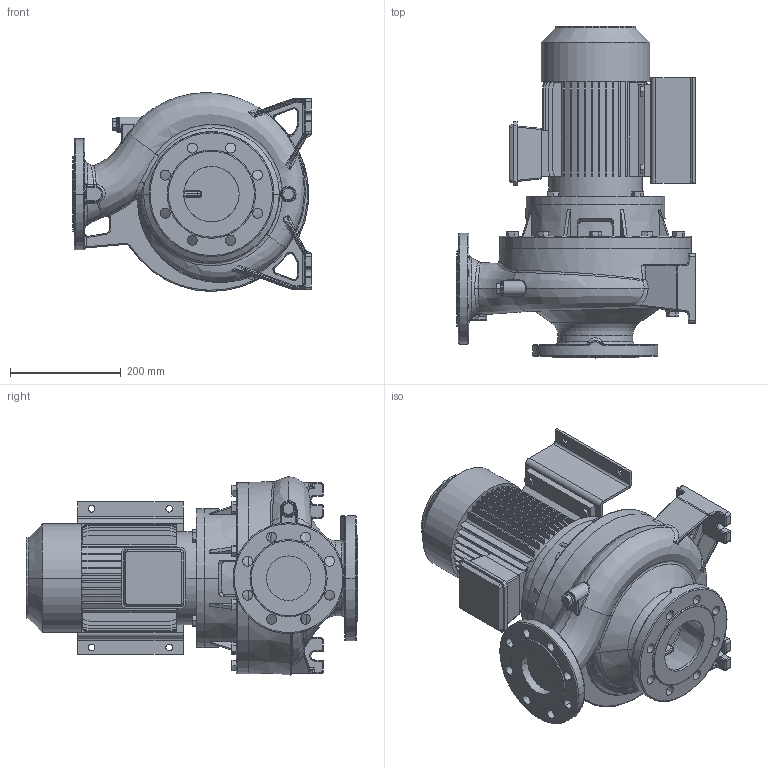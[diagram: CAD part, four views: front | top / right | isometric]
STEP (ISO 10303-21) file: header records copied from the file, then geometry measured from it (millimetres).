
FILE_DESCRIPTION((''),'2;1');
FILE_NAME('3S4_80-200_3_IE3_ASM','2016-09-24T',('rosa'),('"Ebara Pumps Europe +39.444.706811"'),'PRO/ENGINEER BY PARAMETRIC TECHNOLOGY CORPORATION, 2012130','PRO/ENGINEER BY PARAMETRIC TECHNOLOGY CORPORATION, 2012130','');
FILE_SCHEMA(('AUTOMOTIVE_DESIGN { 1 0 10303 214 1 1 1 1 }'));
Products named in the file (6): MOTORE_100L_3_KW_4POLI_B35; SOSTEGNO_72119; M10X22; SUPPORTO_3S_266_100_112; CORPO_POMPA_80-200; 3S4_80-200_3_IE3_ASM
Assembly tree (8 placements, depth 2):
  3S4_80-200_3_IE3_ASM
    MOTORE_100L_3_KW_4POLI_B35
    SOSTEGNO_72119
    M10X22  x4
    SUPPORTO_3S_266_100_112
    CORPO_POMPA_80-200
Bounding box: 430 x 598 x 358.05 mm (x, y, z)
Volume: 25228955.3 mm3; surface area: 1599794.6 mm2
Topology: 8 solids, 8 shells, 1301 faces, 3190 edges, 1979 vertices
Faces by surface type: plane 615, cylinder 289, bspline 216, torus 102, cone 58, sphere 21
Entity records: 59458 total; most frequent: CARTESIAN_POINT 20931, ORIENTED_EDGE 6102, DIRECTION 5450, PRESENTATION_STYLE_ASSIGNMENT 3056, STYLED_ITEM 3056, CURVE_STYLE 3051, EDGE_CURVE 3051, AXIS2_PLACEMENT_3D 1944
